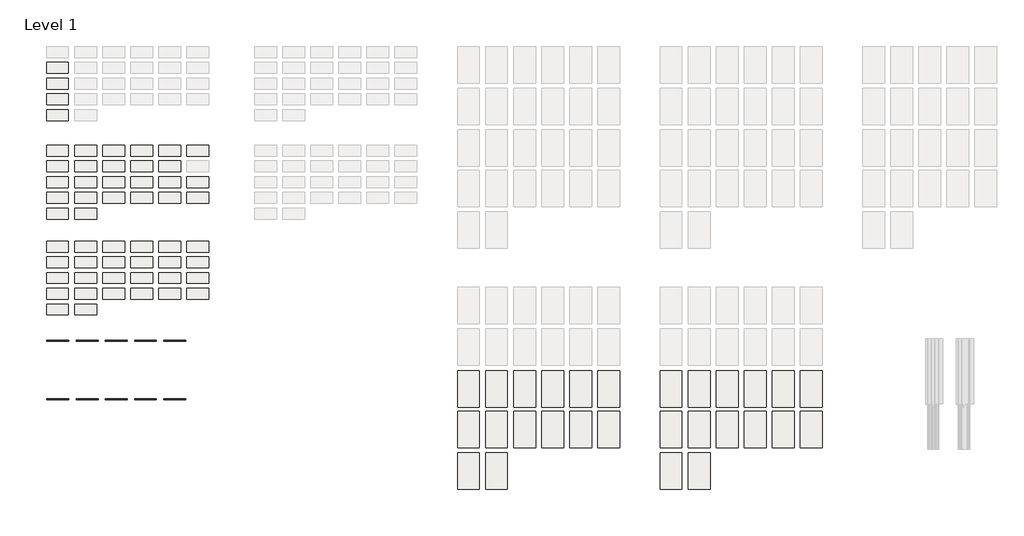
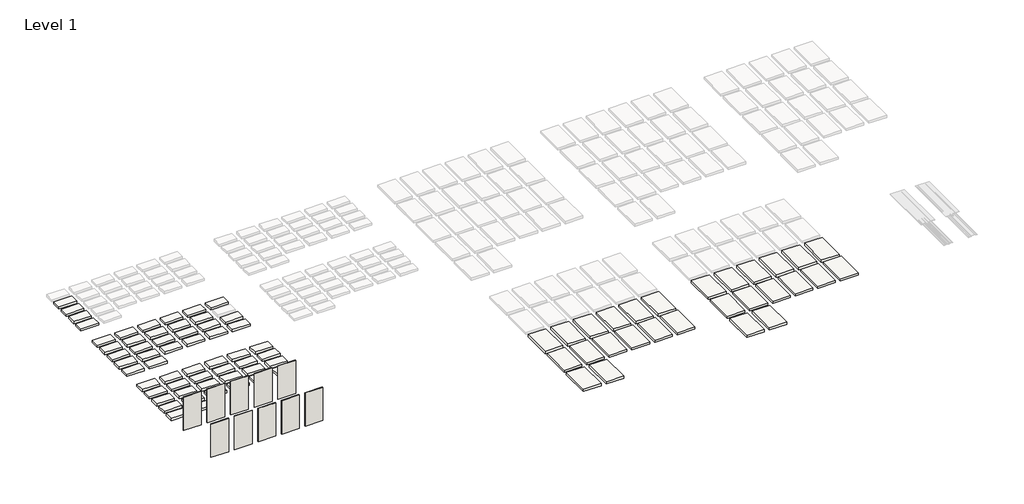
# One storey, part 1 of 3: 83 slabs, 10 walls.
"""IFC4 building model written with IfcOpenShell, lengths in millimetres."""

from ifc_helpers import new_model, si_unit, frame, origin, origin_with_axes, place, context, project, spatial, polyline, outline, extrude, element, save

model = new_model("IFC4")

# Units and contexts
model_context = context("Model", 3, world=origin())
ifc_project = project(units=[si_unit("LENGTHUNIT", "METRE", prefix="MILLI")], contexts=[model_context])

# Site, building, storey
site = spatial("IfcSite", under=ifc_project)
building = spatial("IfcBuilding", under=site)
storey = spatial("IfcBuildingStorey", under=building, Name="Level 1", Elevation=0.0)

# Slabs
placement = place(None, origin())
element("IfcSlab", 1, ObjectType="AEP Span Material Sample", at=placement, inside=storey, context=model_context, shape_type="SweptSolid", body=[
    extrude(outline(polyline([(-4333.8786121, 7638.5595388), (-4943.4786121, 7638.5595388), (-4943.4786121, 7943.3595388), (-4333.8786121, 7943.3595388), (-4333.8786121, 7638.5595388)])), frame((0.0, 0.0, -79.375), z_axis=(0.0, 0.0, 1.0), x_axis=(1.0, 0.0, 0.0)), (0.0, 0.0, 1.0), 79.375),
])
element("IfcSlab", 2, ObjectType="AEP Span Material Sample", at=placement, inside=storey, context=model_context, shape_type="SweptSolid", body=[
    extrude(outline(polyline([(-4333.8786121, 7200.4095388), (-4943.4786121, 7200.4095388), (-4943.4786121, 7505.2095388), (-4333.8786121, 7505.2095388), (-4333.8786121, 7200.4095388)])), frame((0.0, 0.0, -79.375), z_axis=(0.0, 0.0, 1.0), x_axis=(1.0, 0.0, 0.0)), (0.0, 0.0, 1.0), 79.375),
])
element("IfcSlab", 3, ObjectType="AEP Span Material Sample", at=placement, inside=storey, context=model_context, shape_type="SweptSolid", body=[
    extrude(outline(polyline([(-4333.8786121, 6762.2595388), (-4943.4786121, 6762.2595388), (-4943.4786121, 7067.0595388), (-4333.8786121, 7067.0595388), (-4333.8786121, 6762.2595388)])), frame((0.0, 0.0, -79.375), z_axis=(0.0, 0.0, 1.0), x_axis=(1.0, 0.0, 0.0)), (0.0, 0.0, 1.0), 79.375),
])
element("IfcSlab", 4, ObjectType="AEP Span Material Sample", at=placement, inside=storey, context=model_context, shape_type="SweptSolid", body=[
    extrude(outline(polyline([(-4333.8786121, 6324.1095388), (-4943.4786121, 6324.1095388), (-4943.4786121, 6628.9095388), (-4333.8786121, 6628.9095388), (-4333.8786121, 6324.1095388)])), frame((0.0, 0.0, -79.375), z_axis=(0.0, 0.0, 1.0), x_axis=(1.0, 0.0, 0.0)), (0.0, 0.0, 1.0), 79.375),
])
element("IfcSlab", 5, ObjectType="AEP Span Material Sample", at=placement, inside=storey, context=model_context, shape_type="SweptSolid", body=[
    extrude(outline(polyline([(-4333.8786121, 5333.5095388), (-4943.4786121, 5333.5095388), (-4943.4786121, 5638.3095388), (-4333.8786121, 5638.3095388), (-4333.8786121, 5333.5095388)])), frame((0.0, 0.0, -79.375), z_axis=(0.0, 0.0, 1.0), x_axis=(1.0, 0.0, 0.0)), (0.0, 0.0, 1.0), 79.375),
])
element("IfcSlab", 6, ObjectType="AEP Span Material Sample", at=placement, inside=storey, context=model_context, shape_type="SweptSolid", body=[
    extrude(outline(polyline([(-3552.8286121, 5333.5095388), (-4162.4286121, 5333.5095388), (-4162.4286121, 5638.3095388), (-3552.8286121, 5638.3095388), (-3552.8286121, 5333.5095388)])), frame((0.0, 0.0, -79.375), z_axis=(0.0, 0.0, 1.0), x_axis=(1.0, 0.0, 0.0)), (0.0, 0.0, 1.0), 79.375),
])
element("IfcSlab", 7, ObjectType="AEP Span Material Sample", at=placement, inside=storey, context=model_context, shape_type="SweptSolid", body=[
    extrude(outline(polyline([(-2771.7786121, 5333.5095388), (-3381.3786121, 5333.5095388), (-3381.3786121, 5638.3095388), (-2771.7786121, 5638.3095388), (-2771.7786121, 5333.5095388)])), frame((0.0, 0.0, -79.375), z_axis=(0.0, 0.0, 1.0), x_axis=(1.0, 0.0, 0.0)), (0.0, 0.0, 1.0), 79.375),
])
element("IfcSlab", 8, ObjectType="AEP Span Material Sample", at=placement, inside=storey, context=model_context, shape_type="SweptSolid", body=[
    extrude(outline(polyline([(-1990.7286121, 5333.5095388), (-2600.3286121, 5333.5095388), (-2600.3286121, 5638.3095388), (-1990.7286121, 5638.3095388), (-1990.7286121, 5333.5095388)])), frame((0.0, 0.0, -79.375), z_axis=(0.0, 0.0, 1.0), x_axis=(1.0, 0.0, 0.0)), (0.0, 0.0, 1.0), 79.375),
])
element("IfcSlab", 9, ObjectType="AEP Span Material Sample", at=placement, inside=storey, context=model_context, shape_type="SweptSolid", body=[
    extrude(outline(polyline([(-1209.6786121, 5333.5095388), (-1819.2786121, 5333.5095388), (-1819.2786121, 5638.3095388), (-1209.6786121, 5638.3095388), (-1209.6786121, 5333.5095388)])), frame((0.0, 0.0, -79.375), z_axis=(0.0, 0.0, 1.0), x_axis=(1.0, 0.0, 0.0)), (0.0, 0.0, 1.0), 79.375),
])
element("IfcSlab", 10, ObjectType="AEP Span Material Sample", at=placement, inside=storey, context=model_context, shape_type="SweptSolid", body=[
    extrude(outline(polyline([(-428.6286121, 5333.5095388), (-1038.2286121, 5333.5095388), (-1038.2286121, 5638.3095388), (-428.6286121, 5638.3095388), (-428.6286121, 5333.5095388)])), frame((0.0, 0.0, -79.375), z_axis=(0.0, 0.0, 1.0), x_axis=(1.0, 0.0, 0.0)), (0.0, 0.0, 1.0), 79.375),
])
element("IfcSlab", 11, ObjectType="AEP Span Material Sample", at=placement, inside=storey, context=model_context, shape_type="SweptSolid", body=[
    extrude(outline(polyline([(-4333.8786121, 4895.3595388), (-4943.4786121, 4895.3595388), (-4943.4786121, 5200.1595388), (-4333.8786121, 5200.1595388), (-4333.8786121, 4895.3595388)])), frame((0.0, 0.0, -79.375), z_axis=(0.0, 0.0, 1.0), x_axis=(1.0, 0.0, 0.0)), (0.0, 0.0, 1.0), 79.375),
])
element("IfcSlab", 12, ObjectType="AEP Span Material Sample", at=placement, inside=storey, context=model_context, shape_type="SweptSolid", body=[
    extrude(outline(polyline([(-3552.8286121, 4895.3595388), (-4162.4286121, 4895.3595388), (-4162.4286121, 5200.1595388), (-3552.8286121, 5200.1595388), (-3552.8286121, 4895.3595388)])), frame((0.0, 0.0, -79.375), z_axis=(0.0, 0.0, 1.0), x_axis=(1.0, 0.0, 0.0)), (0.0, 0.0, 1.0), 79.375),
])
element("IfcSlab", 13, ObjectType="AEP Span Material Sample", at=placement, inside=storey, context=model_context, shape_type="SweptSolid", body=[
    extrude(outline(polyline([(-2771.7786121, 4895.3595388), (-3381.3786121, 4895.3595388), (-3381.3786121, 5200.1595388), (-2771.7786121, 5200.1595388), (-2771.7786121, 4895.3595388)])), frame((0.0, 0.0, -79.375), z_axis=(0.0, 0.0, 1.0), x_axis=(1.0, 0.0, 0.0)), (0.0, 0.0, 1.0), 79.375),
])
element("IfcSlab", 14, ObjectType="AEP Span Material Sample", at=placement, inside=storey, context=model_context, shape_type="SweptSolid", body=[
    extrude(outline(polyline([(-1990.7286121, 4895.3595388), (-2600.3286121, 4895.3595388), (-2600.3286121, 5200.1595388), (-1990.7286121, 5200.1595388), (-1990.7286121, 4895.3595388)])), frame((0.0, 0.0, -79.375), z_axis=(0.0, 0.0, 1.0), x_axis=(1.0, 0.0, 0.0)), (0.0, 0.0, 1.0), 79.375),
])
element("IfcSlab", 15, ObjectType="AEP Span Material Sample", at=placement, inside=storey, context=model_context, shape_type="SweptSolid", body=[
    extrude(outline(polyline([(-1209.6786121, 4895.3595388), (-1819.2786121, 4895.3595388), (-1819.2786121, 5200.1595388), (-1209.6786121, 5200.1595388), (-1209.6786121, 4895.3595388)])), frame((0.0, 0.0, -79.375), z_axis=(0.0, 0.0, 1.0), x_axis=(1.0, 0.0, 0.0)), (0.0, 0.0, 1.0), 79.375),
])
element("IfcSlab", 16, ObjectType="AEP Span Material Sample", at=placement, inside=storey, context=model_context, shape_type="SweptSolid", body=[
    extrude(outline(polyline([(-4333.8786121, 4457.2095388), (-4943.4786121, 4457.2095388), (-4943.4786121, 4762.0095388), (-4333.8786121, 4762.0095388), (-4333.8786121, 4457.2095388)])), frame((0.0, 0.0, -79.375), z_axis=(0.0, 0.0, 1.0), x_axis=(1.0, 0.0, 0.0)), (0.0, 0.0, 1.0), 79.375),
])
element("IfcSlab", 17, ObjectType="AEP Span Material Sample", at=placement, inside=storey, context=model_context, shape_type="SweptSolid", body=[
    extrude(outline(polyline([(-3552.8286121, 4457.2095388), (-4162.4286121, 4457.2095388), (-4162.4286121, 4762.0095388), (-3552.8286121, 4762.0095388), (-3552.8286121, 4457.2095388)])), frame((0.0, 0.0, -79.375), z_axis=(0.0, 0.0, 1.0), x_axis=(1.0, 0.0, 0.0)), (0.0, 0.0, 1.0), 79.375),
])
element("IfcSlab", 18, ObjectType="AEP Span Material Sample", at=placement, inside=storey, context=model_context, shape_type="SweptSolid", body=[
    extrude(outline(polyline([(-2771.7786121, 4457.2095388), (-3381.3786121, 4457.2095388), (-3381.3786121, 4762.0095388), (-2771.7786121, 4762.0095388), (-2771.7786121, 4457.2095388)])), frame((0.0, 0.0, -79.375), z_axis=(0.0, 0.0, 1.0), x_axis=(1.0, 0.0, 0.0)), (0.0, 0.0, 1.0), 79.375),
])
element("IfcSlab", 19, ObjectType="AEP Span Material Sample", at=placement, inside=storey, context=model_context, shape_type="SweptSolid", body=[
    extrude(outline(polyline([(-1990.7286121, 4457.2095388), (-2600.3286121, 4457.2095388), (-2600.3286121, 4762.0095388), (-1990.7286121, 4762.0095388), (-1990.7286121, 4457.2095388)])), frame((0.0, 0.0, -79.375), z_axis=(0.0, 0.0, 1.0), x_axis=(1.0, 0.0, 0.0)), (0.0, 0.0, 1.0), 79.375),
])
element("IfcSlab", 20, ObjectType="AEP Span Material Sample", at=placement, inside=storey, context=model_context, shape_type="SweptSolid", body=[
    extrude(outline(polyline([(-1209.6786121, 4457.2095388), (-1819.2786121, 4457.2095388), (-1819.2786121, 4762.0095388), (-1209.6786121, 4762.0095388), (-1209.6786121, 4457.2095388)])), frame((0.0, 0.0, -79.375), z_axis=(0.0, 0.0, 1.0), x_axis=(1.0, 0.0, 0.0)), (0.0, 0.0, 1.0), 79.375),
])
element("IfcSlab", 21, ObjectType="AEP Span Material Sample", at=placement, inside=storey, context=model_context, shape_type="SweptSolid", body=[
    extrude(outline(polyline([(-428.6286121, 4457.2095388), (-1038.2286121, 4457.2095388), (-1038.2286121, 4762.0095388), (-428.6286121, 4762.0095388), (-428.6286121, 4457.2095388)])), frame((0.0, 0.0, -79.375), z_axis=(0.0, 0.0, 1.0), x_axis=(1.0, 0.0, 0.0)), (0.0, 0.0, 1.0), 79.375),
])
element("IfcSlab", 22, ObjectType="AEP Span Material Sample", at=placement, inside=storey, context=model_context, shape_type="SweptSolid", body=[
    extrude(outline(polyline([(-4333.8786121, 4019.0595388), (-4943.4786121, 4019.0595388), (-4943.4786121, 4323.8595388), (-4333.8786121, 4323.8595388), (-4333.8786121, 4019.0595388)])), frame((0.0, 0.0, -79.375), z_axis=(0.0, 0.0, 1.0), x_axis=(1.0, 0.0, 0.0)), (0.0, 0.0, 1.0), 79.375),
])
element("IfcSlab", 23, ObjectType="AEP Span Material Sample", at=placement, inside=storey, context=model_context, shape_type="SweptSolid", body=[
    extrude(outline(polyline([(-3552.8286121, 4019.0595388), (-4162.4286121, 4019.0595388), (-4162.4286121, 4323.8595388), (-3552.8286121, 4323.8595388), (-3552.8286121, 4019.0595388)])), frame((0.0, 0.0, -79.375), z_axis=(0.0, 0.0, 1.0), x_axis=(1.0, 0.0, 0.0)), (0.0, 0.0, 1.0), 79.375),
])
element("IfcSlab", 24, ObjectType="AEP Span Material Sample", at=placement, inside=storey, context=model_context, shape_type="SweptSolid", body=[
    extrude(outline(polyline([(-2771.7786121, 4019.0595388), (-3381.3786121, 4019.0595388), (-3381.3786121, 4323.8595388), (-2771.7786121, 4323.8595388), (-2771.7786121, 4019.0595388)])), frame((0.0, 0.0, -79.375), z_axis=(0.0, 0.0, 1.0), x_axis=(1.0, 0.0, 0.0)), (0.0, 0.0, 1.0), 79.375),
])
element("IfcSlab", 25, ObjectType="AEP Span Material Sample", at=placement, inside=storey, context=model_context, shape_type="SweptSolid", body=[
    extrude(outline(polyline([(-1990.7286121, 4019.0595388), (-2600.3286121, 4019.0595388), (-2600.3286121, 4323.8595388), (-1990.7286121, 4323.8595388), (-1990.7286121, 4019.0595388)])), frame((0.0, 0.0, -79.375), z_axis=(0.0, 0.0, 1.0), x_axis=(1.0, 0.0, 0.0)), (0.0, 0.0, 1.0), 79.375),
])
element("IfcSlab", 26, ObjectType="AEP Span Material Sample", at=placement, inside=storey, context=model_context, shape_type="SweptSolid", body=[
    extrude(outline(polyline([(-1209.6786121, 4019.0595388), (-1819.2786121, 4019.0595388), (-1819.2786121, 4323.8595388), (-1209.6786121, 4323.8595388), (-1209.6786121, 4019.0595388)])), frame((0.0, 0.0, -79.375), z_axis=(0.0, 0.0, 1.0), x_axis=(1.0, 0.0, 0.0)), (0.0, 0.0, 1.0), 79.375),
])
element("IfcSlab", 27, ObjectType="AEP Span Material Sample", at=placement, inside=storey, context=model_context, shape_type="SweptSolid", body=[
    extrude(outline(polyline([(-428.6286121, 4019.0595388), (-1038.2286121, 4019.0595388), (-1038.2286121, 4323.8595388), (-428.6286121, 4323.8595388), (-428.6286121, 4019.0595388)])), frame((0.0, 0.0, -79.375), z_axis=(0.0, 0.0, 1.0), x_axis=(1.0, 0.0, 0.0)), (0.0, 0.0, 1.0), 79.375),
])
element("IfcSlab", 28, ObjectType="AEP Span Material Sample", at=placement, inside=storey, context=model_context, shape_type="SweptSolid", body=[
    extrude(outline(polyline([(-4333.8786121, 3580.9095388), (-4943.4786121, 3580.9095388), (-4943.4786121, 3885.7095388), (-4333.8786121, 3885.7095388), (-4333.8786121, 3580.9095388)])), frame((0.0, 0.0, -79.375), z_axis=(0.0, 0.0, 1.0), x_axis=(1.0, 0.0, 0.0)), (0.0, 0.0, 1.0), 79.375),
])
element("IfcSlab", 29, ObjectType="AEP Span Material Sample", at=placement, inside=storey, context=model_context, shape_type="SweptSolid", body=[
    extrude(outline(polyline([(-3552.8286121, 3580.9095388), (-4162.4286121, 3580.9095388), (-4162.4286121, 3885.7095388), (-3552.8286121, 3885.7095388), (-3552.8286121, 3580.9095388)])), frame((0.0, 0.0, -79.375), z_axis=(0.0, 0.0, 1.0), x_axis=(1.0, 0.0, 0.0)), (0.0, 0.0, 1.0), 79.375),
])
element("IfcSlab", 30, ObjectType="AEP Span Material Sample", at=placement, inside=storey, context=model_context, shape_type="SweptSolid", body=[
    extrude(outline(polyline([(-4333.8786121, 2666.5095388), (-4943.4786121, 2666.5095388), (-4943.4786121, 2971.3095388), (-4333.8786121, 2971.3095388), (-4333.8786121, 2666.5095388)])), frame((0.0, 0.0, -79.375), z_axis=(0.0, 0.0, 1.0), x_axis=(1.0, 0.0, 0.0)), (0.0, 0.0, 1.0), 79.375),
])
element("IfcSlab", 31, ObjectType="AEP Span Material Sample", at=placement, inside=storey, context=model_context, shape_type="SweptSolid", body=[
    extrude(outline(polyline([(-3552.8286121, 2666.5095388), (-4162.4286121, 2666.5095388), (-4162.4286121, 2971.3095388), (-3552.8286121, 2971.3095388), (-3552.8286121, 2666.5095388)])), frame((0.0, 0.0, -79.375), z_axis=(0.0, 0.0, 1.0), x_axis=(1.0, 0.0, 0.0)), (0.0, 0.0, 1.0), 79.375),
])
element("IfcSlab", 32, ObjectType="AEP Span Material Sample", at=placement, inside=storey, context=model_context, shape_type="SweptSolid", body=[
    extrude(outline(polyline([(-2771.7786121, 2666.5095388), (-3381.3786121, 2666.5095388), (-3381.3786121, 2971.3095388), (-2771.7786121, 2971.3095388), (-2771.7786121, 2666.5095388)])), frame((0.0, 0.0, -79.375), z_axis=(0.0, 0.0, 1.0), x_axis=(1.0, 0.0, 0.0)), (0.0, 0.0, 1.0), 79.375),
])
element("IfcSlab", 33, ObjectType="AEP Span Material Sample", at=placement, inside=storey, context=model_context, shape_type="SweptSolid", body=[
    extrude(outline(polyline([(-1990.7286121, 2666.5095388), (-2600.3286121, 2666.5095388), (-2600.3286121, 2971.3095388), (-1990.7286121, 2971.3095388), (-1990.7286121, 2666.5095388)])), frame((0.0, 0.0, -79.375), z_axis=(0.0, 0.0, 1.0), x_axis=(1.0, 0.0, 0.0)), (0.0, 0.0, 1.0), 79.375),
])
element("IfcSlab", 34, ObjectType="AEP Span Material Sample", at=placement, inside=storey, context=model_context, shape_type="SweptSolid", body=[
    extrude(outline(polyline([(-1209.6786121, 2666.5095388), (-1819.2786121, 2666.5095388), (-1819.2786121, 2971.3095388), (-1209.6786121, 2971.3095388), (-1209.6786121, 2666.5095388)])), frame((0.0, 0.0, -79.375), z_axis=(0.0, 0.0, 1.0), x_axis=(1.0, 0.0, 0.0)), (0.0, 0.0, 1.0), 79.375),
])
element("IfcSlab", 35, ObjectType="AEP Span Material Sample", at=placement, inside=storey, context=model_context, shape_type="SweptSolid", body=[
    extrude(outline(polyline([(-428.6286121, 2666.5095388), (-1038.2286121, 2666.5095388), (-1038.2286121, 2971.3095388), (-428.6286121, 2971.3095388), (-428.6286121, 2666.5095388)])), frame((0.0, 0.0, -79.375), z_axis=(0.0, 0.0, 1.0), x_axis=(1.0, 0.0, 0.0)), (0.0, 0.0, 1.0), 79.375),
])
element("IfcSlab", 36, ObjectType="AEP Span Material Sample", at=placement, inside=storey, context=model_context, shape_type="SweptSolid", body=[
    extrude(outline(polyline([(-4333.8786121, 2228.3595388), (-4943.4786121, 2228.3595388), (-4943.4786121, 2533.1595388), (-4333.8786121, 2533.1595388), (-4333.8786121, 2228.3595388)])), frame((0.0, 0.0, -79.375), z_axis=(0.0, 0.0, 1.0), x_axis=(1.0, 0.0, 0.0)), (0.0, 0.0, 1.0), 79.375),
])
element("IfcSlab", 37, ObjectType="AEP Span Material Sample", at=placement, inside=storey, context=model_context, shape_type="SweptSolid", body=[
    extrude(outline(polyline([(-3552.8286121, 2228.3595388), (-4162.4286121, 2228.3595388), (-4162.4286121, 2533.1595388), (-3552.8286121, 2533.1595388), (-3552.8286121, 2228.3595388)])), frame((0.0, 0.0, -79.375), z_axis=(0.0, 0.0, 1.0), x_axis=(1.0, 0.0, 0.0)), (0.0, 0.0, 1.0), 79.375),
])
element("IfcSlab", 38, ObjectType="AEP Span Material Sample", at=placement, inside=storey, context=model_context, shape_type="SweptSolid", body=[
    extrude(outline(polyline([(-2771.7786121, 2228.3595388), (-3381.3786121, 2228.3595388), (-3381.3786121, 2533.1595388), (-2771.7786121, 2533.1595388), (-2771.7786121, 2228.3595388)])), frame((0.0, 0.0, -79.375), z_axis=(0.0, 0.0, 1.0), x_axis=(1.0, 0.0, 0.0)), (0.0, 0.0, 1.0), 79.375),
])
element("IfcSlab", 39, ObjectType="AEP Span Material Sample", at=placement, inside=storey, context=model_context, shape_type="SweptSolid", body=[
    extrude(outline(polyline([(-1990.7286121, 2228.3595388), (-2600.3286121, 2228.3595388), (-2600.3286121, 2533.1595388), (-1990.7286121, 2533.1595388), (-1990.7286121, 2228.3595388)])), frame((0.0, 0.0, -79.375), z_axis=(0.0, 0.0, 1.0), x_axis=(1.0, 0.0, 0.0)), (0.0, 0.0, 1.0), 79.375),
])
element("IfcSlab", 40, ObjectType="AEP Span Material Sample", at=placement, inside=storey, context=model_context, shape_type="SweptSolid", body=[
    extrude(outline(polyline([(-1209.6786121, 2228.3595388), (-1819.2786121, 2228.3595388), (-1819.2786121, 2533.1595388), (-1209.6786121, 2533.1595388), (-1209.6786121, 2228.3595388)])), frame((0.0, 0.0, -79.375), z_axis=(0.0, 0.0, 1.0), x_axis=(1.0, 0.0, 0.0)), (0.0, 0.0, 1.0), 79.375),
])
element("IfcSlab", 41, ObjectType="AEP Span Material Sample", at=placement, inside=storey, context=model_context, shape_type="SweptSolid", body=[
    extrude(outline(polyline([(-428.6286121, 2228.3595388), (-1038.2286121, 2228.3595388), (-1038.2286121, 2533.1595388), (-428.6286121, 2533.1595388), (-428.6286121, 2228.3595388)])), frame((0.0, 0.0, -79.375), z_axis=(0.0, 0.0, 1.0), x_axis=(1.0, 0.0, 0.0)), (0.0, 0.0, 1.0), 79.375),
])
element("IfcSlab", 42, ObjectType="AEP Span Material Sample", at=placement, inside=storey, context=model_context, shape_type="SweptSolid", body=[
    extrude(outline(polyline([(-4333.8786121, 1790.2095388), (-4943.4786121, 1790.2095388), (-4943.4786121, 2095.0095388), (-4333.8786121, 2095.0095388), (-4333.8786121, 1790.2095388)])), frame((0.0, 0.0, -79.375), z_axis=(0.0, 0.0, 1.0), x_axis=(1.0, 0.0, 0.0)), (0.0, 0.0, 1.0), 79.375),
])
element("IfcSlab", 43, ObjectType="AEP Span Material Sample", at=placement, inside=storey, context=model_context, shape_type="SweptSolid", body=[
    extrude(outline(polyline([(-3552.8286121, 1790.2095388), (-4162.4286121, 1790.2095388), (-4162.4286121, 2095.0095388), (-3552.8286121, 2095.0095388), (-3552.8286121, 1790.2095388)])), frame((0.0, 0.0, -79.375), z_axis=(0.0, 0.0, 1.0), x_axis=(1.0, 0.0, 0.0)), (0.0, 0.0, 1.0), 79.375),
])
element("IfcSlab", 44, ObjectType="AEP Span Material Sample", at=placement, inside=storey, context=model_context, shape_type="SweptSolid", body=[
    extrude(outline(polyline([(-2771.7786121, 1790.2095388), (-3381.3786121, 1790.2095388), (-3381.3786121, 2095.0095388), (-2771.7786121, 2095.0095388), (-2771.7786121, 1790.2095388)])), frame((0.0, 0.0, -79.375), z_axis=(0.0, 0.0, 1.0), x_axis=(1.0, 0.0, 0.0)), (0.0, 0.0, 1.0), 79.375),
])
element("IfcSlab", 45, ObjectType="AEP Span Material Sample", at=placement, inside=storey, context=model_context, shape_type="SweptSolid", body=[
    extrude(outline(polyline([(-1990.7286121, 1790.2095388), (-2600.3286121, 1790.2095388), (-2600.3286121, 2095.0095388), (-1990.7286121, 2095.0095388), (-1990.7286121, 1790.2095388)])), frame((0.0, 0.0, -79.375), z_axis=(0.0, 0.0, 1.0), x_axis=(1.0, 0.0, 0.0)), (0.0, 0.0, 1.0), 79.375),
])
element("IfcSlab", 46, ObjectType="AEP Span Material Sample", at=placement, inside=storey, context=model_context, shape_type="SweptSolid", body=[
    extrude(outline(polyline([(-1209.6786121, 1790.2095388), (-1819.2786121, 1790.2095388), (-1819.2786121, 2095.0095388), (-1209.6786121, 2095.0095388), (-1209.6786121, 1790.2095388)])), frame((0.0, 0.0, -79.375), z_axis=(0.0, 0.0, 1.0), x_axis=(1.0, 0.0, 0.0)), (0.0, 0.0, 1.0), 79.375),
])
element("IfcSlab", 47, ObjectType="AEP Span Material Sample", at=placement, inside=storey, context=model_context, shape_type="SweptSolid", body=[
    extrude(outline(polyline([(-428.6286121, 1790.2095388), (-1038.2286121, 1790.2095388), (-1038.2286121, 2095.0095388), (-428.6286121, 2095.0095388), (-428.6286121, 1790.2095388)])), frame((0.0, 0.0, -79.375), z_axis=(0.0, 0.0, 1.0), x_axis=(1.0, 0.0, 0.0)), (0.0, 0.0, 1.0), 79.375),
])
element("IfcSlab", 48, ObjectType="AEP Span Material Sample", at=placement, inside=storey, context=model_context, shape_type="SweptSolid", body=[
    extrude(outline(polyline([(-4333.8786121, 1352.0595388), (-4943.4786121, 1352.0595388), (-4943.4786121, 1656.8595388), (-4333.8786121, 1656.8595388), (-4333.8786121, 1352.0595388)])), frame((0.0, 0.0, -79.375), z_axis=(0.0, 0.0, 1.0), x_axis=(1.0, 0.0, 0.0)), (0.0, 0.0, 1.0), 79.375),
])
element("IfcSlab", 49, ObjectType="AEP Span Material Sample", at=placement, inside=storey, context=model_context, shape_type="SweptSolid", body=[
    extrude(outline(polyline([(-3552.8286121, 1352.0595388), (-4162.4286121, 1352.0595388), (-4162.4286121, 1656.8595388), (-3552.8286121, 1656.8595388), (-3552.8286121, 1352.0595388)])), frame((0.0, 0.0, -79.375), z_axis=(0.0, 0.0, 1.0), x_axis=(1.0, 0.0, 0.0)), (0.0, 0.0, 1.0), 79.375),
])
element("IfcSlab", 50, ObjectType="AEP Span Material Sample", at=placement, inside=storey, context=model_context, shape_type="SweptSolid", body=[
    extrude(outline(polyline([(-2771.7786121, 1352.0595388), (-3381.3786121, 1352.0595388), (-3381.3786121, 1656.8595388), (-2771.7786121, 1656.8595388), (-2771.7786121, 1352.0595388)])), frame((0.0, 0.0, -79.375), z_axis=(0.0, 0.0, 1.0), x_axis=(1.0, 0.0, 0.0)), (0.0, 0.0, 1.0), 79.375),
])
element("IfcSlab", 51, ObjectType="AEP Span Material Sample", at=placement, inside=storey, context=model_context, shape_type="SweptSolid", body=[
    extrude(outline(polyline([(-1990.7286121, 1352.0595388), (-2600.3286121, 1352.0595388), (-2600.3286121, 1656.8595388), (-1990.7286121, 1656.8595388), (-1990.7286121, 1352.0595388)])), frame((0.0, 0.0, -79.375), z_axis=(0.0, 0.0, 1.0), x_axis=(1.0, 0.0, 0.0)), (0.0, 0.0, 1.0), 79.375),
])
element("IfcSlab", 52, ObjectType="AEP Span Material Sample", at=placement, inside=storey, context=model_context, shape_type="SweptSolid", body=[
    extrude(outline(polyline([(-1209.6786121, 1352.0595388), (-1819.2786121, 1352.0595388), (-1819.2786121, 1656.8595388), (-1209.6786121, 1656.8595388), (-1209.6786121, 1352.0595388)])), frame((0.0, 0.0, -79.375), z_axis=(0.0, 0.0, 1.0), x_axis=(1.0, 0.0, 0.0)), (0.0, 0.0, 1.0), 79.375),
])
element("IfcSlab", 53, ObjectType="AEP Span Material Sample", at=placement, inside=storey, context=model_context, shape_type="SweptSolid", body=[
    extrude(outline(polyline([(-428.6286121, 1352.0595388), (-1038.2286121, 1352.0595388), (-1038.2286121, 1656.8595388), (-428.6286121, 1656.8595388), (-428.6286121, 1352.0595388)])), frame((0.0, 0.0, -79.375), z_axis=(0.0, 0.0, 1.0), x_axis=(1.0, 0.0, 0.0)), (0.0, 0.0, 1.0), 79.375),
])
element("IfcSlab", 54, ObjectType="AEP Span Material Sample", at=placement, inside=storey, context=model_context, shape_type="SweptSolid", body=[
    extrude(outline(polyline([(-4333.8786121, 913.9095388), (-4943.4786121, 913.9095388), (-4943.4786121, 1218.7095388), (-4333.8786121, 1218.7095388), (-4333.8786121, 913.9095388)])), frame((0.0, 0.0, -79.375), z_axis=(0.0, 0.0, 1.0), x_axis=(1.0, 0.0, 0.0)), (0.0, 0.0, 1.0), 79.375),
])
element("IfcSlab", 55, ObjectType="AEP Span Material Sample", at=placement, inside=storey, context=model_context, shape_type="SweptSolid", body=[
    extrude(outline(polyline([(-3552.8286121, 913.9095388), (-4162.4286121, 913.9095388), (-4162.4286121, 1218.7095388), (-3552.8286121, 1218.7095388), (-3552.8286121, 913.9095388)])), frame((0.0, 0.0, -79.375), z_axis=(0.0, 0.0, 1.0), x_axis=(1.0, 0.0, 0.0)), (0.0, 0.0, 1.0), 79.375),
])
element("IfcSlab", 56, ObjectType="AEP Span Material Sample", at=placement, inside=storey, context=model_context, shape_type="SweptSolid", body=[
    extrude(outline(polyline([(7104.6651306, -1647.5986229), (6495.0651306, -1647.5986229), (6495.0651306, -631.5986229), (7104.6651306, -631.5986229), (7104.6651306, -1647.5986229)])), frame((0.0, 0.0, -79.375), z_axis=(0.0, 0.0, 1.0), x_axis=(1.0, 0.0, 0.0)), (0.0, 0.0, 1.0), 79.375),
])
element("IfcSlab", 57, ObjectType="AEP Span Material Sample", at=placement, inside=storey, context=model_context, shape_type="SweptSolid", body=[
    extrude(outline(polyline([(7885.7151306, -1647.5986229), (7276.1151306, -1647.5986229), (7276.1151306, -631.5986229), (7885.7151306, -631.5986229), (7885.7151306, -1647.5986229)])), frame((0.0, 0.0, -79.375), z_axis=(0.0, 0.0, 1.0), x_axis=(1.0, 0.0, 0.0)), (0.0, 0.0, 1.0), 79.375),
])
element("IfcSlab", 58, ObjectType="AEP Span Material Sample", at=placement, inside=storey, context=model_context, shape_type="SweptSolid", body=[
    extrude(outline(polyline([(8666.7651306, -1647.5986229), (8057.1651306, -1647.5986229), (8057.1651306, -631.5986229), (8666.7651306, -631.5986229), (8666.7651306, -1647.5986229)])), frame((0.0, 0.0, -79.375), z_axis=(0.0, 0.0, 1.0), x_axis=(1.0, 0.0, 0.0)), (0.0, 0.0, 1.0), 79.375),
])
element("IfcSlab", 59, ObjectType="AEP Span Material Sample", at=placement, inside=storey, context=model_context, shape_type="SweptSolid", body=[
    extrude(outline(polyline([(9447.8151306, -1647.5986229), (8838.2151306, -1647.5986229), (8838.2151306, -631.5986229), (9447.8151306, -631.5986229), (9447.8151306, -1647.5986229)])), frame((0.0, 0.0, -79.375), z_axis=(0.0, 0.0, 1.0), x_axis=(1.0, 0.0, 0.0)), (0.0, 0.0, 1.0), 79.375),
])
element("IfcSlab", 60, ObjectType="AEP Span Material Sample", at=placement, inside=storey, context=model_context, shape_type="SweptSolid", body=[
    extrude(outline(polyline([(10228.8651306, -1647.5986229), (9619.2651306, -1647.5986229), (9619.2651306, -631.5986229), (10228.8651306, -631.5986229), (10228.8651306, -1647.5986229)])), frame((0.0, 0.0, -79.375), z_axis=(0.0, 0.0, 1.0), x_axis=(1.0, 0.0, 0.0)), (0.0, 0.0, 1.0), 79.375),
])
element("IfcSlab", 61, ObjectType="AEP Span Material Sample", at=placement, inside=storey, context=model_context, shape_type="SweptSolid", body=[
    extrude(outline(polyline([(11009.9151306, -1647.5986229), (10400.3151306, -1647.5986229), (10400.3151306, -631.5986229), (11009.9151306, -631.5986229), (11009.9151306, -1647.5986229)])), frame((0.0, 0.0, -79.375), z_axis=(0.0, 0.0, 1.0), x_axis=(1.0, 0.0, 0.0)), (0.0, 0.0, 1.0), 79.375),
])
element("IfcSlab", 62, ObjectType="AEP Span Material Sample", at=placement, inside=storey, context=model_context, shape_type="SweptSolid", body=[
    extrude(outline(polyline([(7104.6651306, -2777.8986229), (6495.0651306, -2777.8986229), (6495.0651306, -1761.8986229), (7104.6651306, -1761.8986229), (7104.6651306, -2777.8986229)])), frame((0.0, 0.0, -79.375), z_axis=(0.0, 0.0, 1.0), x_axis=(1.0, 0.0, 0.0)), (0.0, 0.0, 1.0), 79.375),
])
element("IfcSlab", 63, ObjectType="AEP Span Material Sample", at=placement, inside=storey, context=model_context, shape_type="SweptSolid", body=[
    extrude(outline(polyline([(7885.7151306, -2777.8986229), (7276.1151306, -2777.8986229), (7276.1151306, -1761.8986229), (7885.7151306, -1761.8986229), (7885.7151306, -2777.8986229)])), frame((0.0, 0.0, -79.375), z_axis=(0.0, 0.0, 1.0), x_axis=(1.0, 0.0, 0.0)), (0.0, 0.0, 1.0), 79.375),
])
element("IfcSlab", 64, ObjectType="AEP Span Material Sample", at=placement, inside=storey, context=model_context, shape_type="SweptSolid", body=[
    extrude(outline(polyline([(8666.7651306, -2777.8986229), (8057.1651306, -2777.8986229), (8057.1651306, -1761.8986229), (8666.7651306, -1761.8986229), (8666.7651306, -2777.8986229)])), frame((0.0, 0.0, -79.375), z_axis=(0.0, 0.0, 1.0), x_axis=(1.0, 0.0, 0.0)), (0.0, 0.0, 1.0), 79.375),
])
element("IfcSlab", 65, ObjectType="AEP Span Material Sample", at=placement, inside=storey, context=model_context, shape_type="SweptSolid", body=[
    extrude(outline(polyline([(9447.8151306, -2777.8986229), (8838.2151306, -2777.8986229), (8838.2151306, -1761.8986229), (9447.8151306, -1761.8986229), (9447.8151306, -2777.8986229)])), frame((0.0, 0.0, -79.375), z_axis=(0.0, 0.0, 1.0), x_axis=(1.0, 0.0, 0.0)), (0.0, 0.0, 1.0), 79.375),
])
element("IfcSlab", 66, ObjectType="AEP Span Material Sample", at=placement, inside=storey, context=model_context, shape_type="SweptSolid", body=[
    extrude(outline(polyline([(10228.8651306, -2777.8986229), (9619.2651306, -2777.8986229), (9619.2651306, -1761.8986229), (10228.8651306, -1761.8986229), (10228.8651306, -2777.8986229)])), frame((0.0, 0.0, -79.375), z_axis=(0.0, 0.0, 1.0), x_axis=(1.0, 0.0, 0.0)), (0.0, 0.0, 1.0), 79.375),
])
element("IfcSlab", 67, ObjectType="AEP Span Material Sample", at=placement, inside=storey, context=model_context, shape_type="SweptSolid", body=[
    extrude(outline(polyline([(11009.9151306, -2777.8986229), (10400.3151306, -2777.8986229), (10400.3151306, -1761.8986229), (11009.9151306, -1761.8986229), (11009.9151306, -2777.8986229)])), frame((0.0, 0.0, -79.375), z_axis=(0.0, 0.0, 1.0), x_axis=(1.0, 0.0, 0.0)), (0.0, 0.0, 1.0), 79.375),
])
element("IfcSlab", 68, ObjectType="AEP Span Material Sample", at=placement, inside=storey, context=model_context, shape_type="SweptSolid", body=[
    extrude(outline(polyline([(7104.6651306, -3933.5986229), (6495.0651306, -3933.5986229), (6495.0651306, -2917.5986229), (7104.6651306, -2917.5986229), (7104.6651306, -3933.5986229)])), frame((0.0, 0.0, -79.375), z_axis=(0.0, 0.0, 1.0), x_axis=(1.0, 0.0, 0.0)), (0.0, 0.0, 1.0), 79.375),
])
element("IfcSlab", 69, ObjectType="AEP Span Material Sample", at=placement, inside=storey, context=model_context, shape_type="SweptSolid", body=[
    extrude(outline(polyline([(7885.7151306, -3933.5986229), (7276.1151306, -3933.5986229), (7276.1151306, -2917.5986229), (7885.7151306, -2917.5986229), (7885.7151306, -3933.5986229)])), frame((0.0, 0.0, -79.375), z_axis=(0.0, 0.0, 1.0), x_axis=(1.0, 0.0, 0.0)), (0.0, 0.0, 1.0), 79.375),
])
element("IfcSlab", 70, ObjectType="AEP Span Material Sample", at=placement, inside=storey, context=model_context, shape_type="SweptSolid", body=[
    extrude(outline(polyline([(12743.4651306, -1647.5986229), (12133.8651306, -1647.5986229), (12133.8651306, -631.5986229), (12743.4651306, -631.5986229), (12743.4651306, -1647.5986229)])), frame((0.0, 0.0, -79.375), z_axis=(0.0, 0.0, 1.0), x_axis=(1.0, 0.0, 0.0)), (0.0, 0.0, 1.0), 79.375),
])
element("IfcSlab", 71, ObjectType="AEP Span Material Sample", at=placement, inside=storey, context=model_context, shape_type="SweptSolid", body=[
    extrude(outline(polyline([(13524.5151306, -1647.5986229), (12914.9151306, -1647.5986229), (12914.9151306, -631.5986229), (13524.5151306, -631.5986229), (13524.5151306, -1647.5986229)])), frame((0.0, 0.0, -79.375), z_axis=(0.0, 0.0, 1.0), x_axis=(1.0, 0.0, 0.0)), (0.0, 0.0, 1.0), 79.375),
])
element("IfcSlab", 72, ObjectType="AEP Span Material Sample", at=placement, inside=storey, context=model_context, shape_type="SweptSolid", body=[
    extrude(outline(polyline([(14305.5651306, -1647.5986229), (13695.9651306, -1647.5986229), (13695.9651306, -631.5986229), (14305.5651306, -631.5986229), (14305.5651306, -1647.5986229)])), frame((0.0, 0.0, -79.375), z_axis=(0.0, 0.0, 1.0), x_axis=(1.0, 0.0, 0.0)), (0.0, 0.0, 1.0), 79.375),
])
element("IfcSlab", 73, ObjectType="AEP Span Material Sample", at=placement, inside=storey, context=model_context, shape_type="SweptSolid", body=[
    extrude(outline(polyline([(15086.6151306, -1647.5986229), (14477.0151306, -1647.5986229), (14477.0151306, -631.5986229), (15086.6151306, -631.5986229), (15086.6151306, -1647.5986229)])), frame((0.0, 0.0, -79.375), z_axis=(0.0, 0.0, 1.0), x_axis=(1.0, 0.0, 0.0)), (0.0, 0.0, 1.0), 79.375),
])
element("IfcSlab", 74, ObjectType="AEP Span Material Sample", at=placement, inside=storey, context=model_context, shape_type="SweptSolid", body=[
    extrude(outline(polyline([(15867.6651306, -1647.5986229), (15258.0651306, -1647.5986229), (15258.0651306, -631.5986229), (15867.6651306, -631.5986229), (15867.6651306, -1647.5986229)])), frame((0.0, 0.0, -79.375), z_axis=(0.0, 0.0, 1.0), x_axis=(1.0, 0.0, 0.0)), (0.0, 0.0, 1.0), 79.375),
])
element("IfcSlab", 75, ObjectType="AEP Span Material Sample", at=placement, inside=storey, context=model_context, shape_type="SweptSolid", body=[
    extrude(outline(polyline([(16648.7151306, -1647.5986229), (16039.1151306, -1647.5986229), (16039.1151306, -631.5986229), (16648.7151306, -631.5986229), (16648.7151306, -1647.5986229)])), frame((0.0, 0.0, -79.375), z_axis=(0.0, 0.0, 1.0), x_axis=(1.0, 0.0, 0.0)), (0.0, 0.0, 1.0), 79.375),
])
element("IfcSlab", 76, ObjectType="AEP Span Material Sample", at=placement, inside=storey, context=model_context, shape_type="SweptSolid", body=[
    extrude(outline(polyline([(12743.4651306, -2777.8986229), (12133.8651306, -2777.8986229), (12133.8651306, -1761.8986229), (12743.4651306, -1761.8986229), (12743.4651306, -2777.8986229)])), frame((0.0, 0.0, -79.375), z_axis=(0.0, 0.0, 1.0), x_axis=(1.0, 0.0, 0.0)), (0.0, 0.0, 1.0), 79.375),
])
element("IfcSlab", 77, ObjectType="AEP Span Material Sample", at=placement, inside=storey, context=model_context, shape_type="SweptSolid", body=[
    extrude(outline(polyline([(13524.5151306, -2777.8986229), (12914.9151306, -2777.8986229), (12914.9151306, -1761.8986229), (13524.5151306, -1761.8986229), (13524.5151306, -2777.8986229)])), frame((0.0, 0.0, -79.375), z_axis=(0.0, 0.0, 1.0), x_axis=(1.0, 0.0, 0.0)), (0.0, 0.0, 1.0), 79.375),
])
element("IfcSlab", 78, ObjectType="AEP Span Material Sample", at=placement, inside=storey, context=model_context, shape_type="SweptSolid", body=[
    extrude(outline(polyline([(14305.5651306, -2777.8986229), (13695.9651306, -2777.8986229), (13695.9651306, -1761.8986229), (14305.5651306, -1761.8986229), (14305.5651306, -2777.8986229)])), frame((0.0, 0.0, -79.375), z_axis=(0.0, 0.0, 1.0), x_axis=(1.0, 0.0, 0.0)), (0.0, 0.0, 1.0), 79.375),
])
element("IfcSlab", 79, ObjectType="AEP Span Material Sample", at=placement, inside=storey, context=model_context, shape_type="SweptSolid", body=[
    extrude(outline(polyline([(15086.6151306, -2777.8986229), (14477.0151306, -2777.8986229), (14477.0151306, -1761.8986229), (15086.6151306, -1761.8986229), (15086.6151306, -2777.8986229)])), frame((0.0, 0.0, -79.375), z_axis=(0.0, 0.0, 1.0), x_axis=(1.0, 0.0, 0.0)), (0.0, 0.0, 1.0), 79.375),
])
element("IfcSlab", 80, ObjectType="AEP Span Material Sample", at=placement, inside=storey, context=model_context, shape_type="SweptSolid", body=[
    extrude(outline(polyline([(15867.6651306, -2777.8986229), (15258.0651306, -2777.8986229), (15258.0651306, -1761.8986229), (15867.6651306, -1761.8986229), (15867.6651306, -2777.8986229)])), frame((0.0, 0.0, -79.375), z_axis=(0.0, 0.0, 1.0), x_axis=(1.0, 0.0, 0.0)), (0.0, 0.0, 1.0), 79.375),
])
element("IfcSlab", 81, ObjectType="AEP Span Material Sample", at=placement, inside=storey, context=model_context, shape_type="SweptSolid", body=[
    extrude(outline(polyline([(16648.7151306, -2777.8986229), (16039.1151306, -2777.8986229), (16039.1151306, -1761.8986229), (16648.7151306, -1761.8986229), (16648.7151306, -2777.8986229)])), frame((0.0, 0.0, -79.375), z_axis=(0.0, 0.0, 1.0), x_axis=(1.0, 0.0, 0.0)), (0.0, 0.0, 1.0), 79.375),
])
element("IfcSlab", 82, ObjectType="AEP Span Material Sample", at=placement, inside=storey, context=model_context, shape_type="SweptSolid", body=[
    extrude(outline(polyline([(12743.4651306, -3933.5986229), (12133.8651306, -3933.5986229), (12133.8651306, -2917.5986229), (12743.4651306, -2917.5986229), (12743.4651306, -3933.5986229)])), frame((0.0, 0.0, -79.375), z_axis=(0.0, 0.0, 1.0), x_axis=(1.0, 0.0, 0.0)), (0.0, 0.0, 1.0), 79.375),
])
element("IfcSlab", 83, ObjectType="AEP Span Material Sample", at=placement, inside=storey, context=model_context, shape_type="SweptSolid", body=[
    extrude(outline(polyline([(13524.5151306, -3933.5986229), (12914.9151306, -3933.5986229), (12914.9151306, -2917.5986229), (13524.5151306, -2917.5986229), (13524.5151306, -3933.5986229)])), frame((0.0, 0.0, -79.375), z_axis=(0.0, 0.0, 1.0), x_axis=(1.0, 0.0, 0.0)), (0.0, 0.0, 1.0), 79.375),
])

# Walls
element("IfcWall", 84, ObjectType="Perception Collection PC10-12c Horizontal - 20ga", at=placement, inside=storey, context=model_context, shape_type="SweptSolid", body=[
    extrude(outline(polyline([(-4323.6587959, 186.2639299), (-4933.2587959, 186.2639299), (-4933.2587959, 208.4889299), (-4323.6587959, 208.4889299), (-4323.6587959, 186.2639299)])), origin_with_axes(), (0.0, 0.0, 1.0), 1219.2),
])
element("IfcWall", 85, ObjectType="Perception Collection PC20-12c Horizontal - 20ga", at=placement, inside=storey, context=model_context, shape_type="SweptSolid", body=[
    extrude(outline(polyline([(-3510.8587959, 186.2639299), (-4120.4587959, 186.2639299), (-4120.4587959, 208.4889299), (-3510.8587959, 208.4889299), (-3510.8587959, 186.2639299)])), origin_with_axes(), (0.0, 0.0, 1.0), 1219.2),
])
element("IfcWall", 86, ObjectType="Perception Collection PC30-12c Horizontal - 20ga", at=placement, inside=storey, context=model_context, shape_type="SweptSolid", body=[
    extrude(outline(polyline([(-2698.0587959, 186.2639299), (-3307.6587959, 186.2639299), (-3307.6587959, 208.4889299), (-2698.0587959, 208.4889299), (-2698.0587959, 186.2639299)])), origin_with_axes(), (0.0, 0.0, 1.0), 1219.2),
])
element("IfcWall", 87, ObjectType="Perception Collection PC40-12c Horizontal - 20ga", at=placement, inside=storey, context=model_context, shape_type="SweptSolid", body=[
    extrude(outline(polyline([(-1885.2587959, 186.2639299), (-2494.8587959, 186.2639299), (-2494.8587959, 208.4889299), (-1885.2587959, 208.4889299), (-1885.2587959, 186.2639299)])), origin_with_axes(), (0.0, 0.0, 1.0), 1219.2),
])
element("IfcWall", 88, ObjectType="Perception Collection PC50-12c Horizontal - 20ga", at=placement, inside=storey, context=model_context, shape_type="SweptSolid", body=[
    extrude(outline(polyline([(-1072.4587959, 186.2639299), (-1682.0587959, 186.2639299), (-1682.0587959, 208.4889299), (-1072.4587959, 208.4889299), (-1072.4587959, 186.2639299)])), origin_with_axes(), (0.0, 0.0, 1.0), 1219.2),
])
element("IfcWall", 89, ObjectType="Perception Collection PC10-12c Vertical - 20ga", at=placement, inside=storey, context=model_context, shape_type="SweptSolid", body=[
    extrude(outline(polyline([(-4323.6587959, -1439.3360701), (-4933.2587959, -1439.3360701), (-4933.2587959, -1417.1110701), (-4323.6587959, -1417.1110701), (-4323.6587959, -1439.3360701)])), origin_with_axes(), (0.0, 0.0, 1.0), 1219.2),
])
element("IfcWall", 90, ObjectType="Perception Collection PC20-12c Vertical - 20ga", at=placement, inside=storey, context=model_context, shape_type="SweptSolid", body=[
    extrude(outline(polyline([(-3510.8587959, -1439.3360701), (-4120.4587959, -1439.3360701), (-4120.4587959, -1417.1110701), (-3510.8587959, -1417.1110701), (-3510.8587959, -1439.3360701)])), origin_with_axes(), (0.0, 0.0, 1.0), 1219.2),
])
element("IfcWall", 91, ObjectType="Perception Collection PC30-12c Vertical - 20ga", at=placement, inside=storey, context=model_context, shape_type="SweptSolid", body=[
    extrude(outline(polyline([(-2698.0587959, -1439.3360701), (-3307.6587959, -1439.3360701), (-3307.6587959, -1417.1110701), (-2698.0587959, -1417.1110701), (-2698.0587959, -1439.3360701)])), origin_with_axes(), (0.0, 0.0, 1.0), 1219.2),
])
element("IfcWall", 92, ObjectType="Perception Collection PC40-12c Vertical - 20ga", at=placement, inside=storey, context=model_context, shape_type="SweptSolid", body=[
    extrude(outline(polyline([(-1885.2587959, -1439.3360701), (-2494.8587959, -1439.3360701), (-2494.8587959, -1417.1110701), (-1885.2587959, -1417.1110701), (-1885.2587959, -1439.3360701)])), origin_with_axes(), (0.0, 0.0, 1.0), 1219.2),
])
element("IfcWall", 93, ObjectType="Perception Collection PC50-12c Vertical - 20ga", at=placement, inside=storey, context=model_context, shape_type="SweptSolid", body=[
    extrude(outline(polyline([(-1072.4587959, -1439.3360701), (-1682.0587959, -1439.3360701), (-1682.0587959, -1417.1110701), (-1072.4587959, -1417.1110701), (-1072.4587959, -1439.3360701)])), origin_with_axes(), (0.0, 0.0, 1.0), 1219.2),
])

save(model, "model.ifc")
